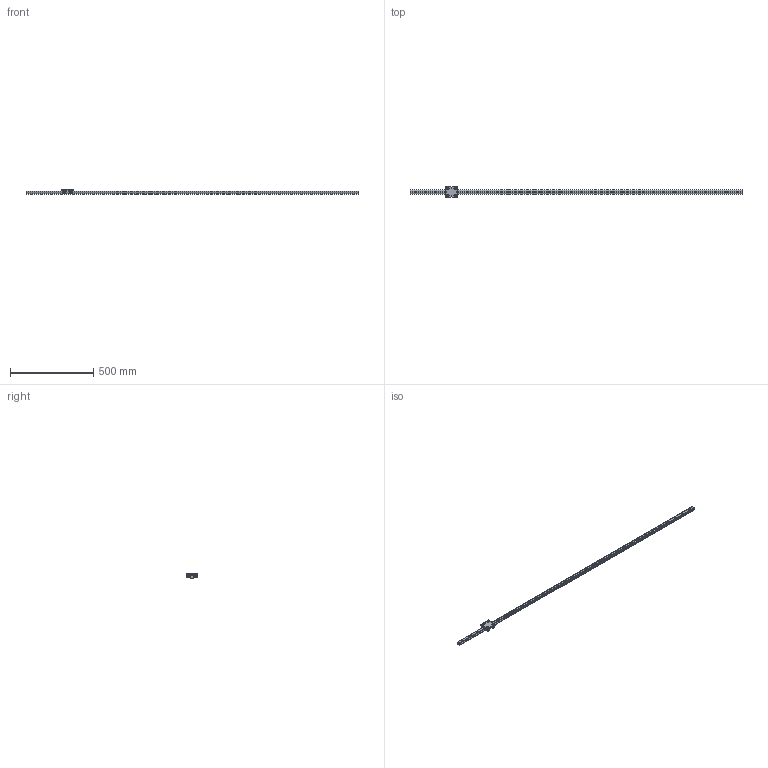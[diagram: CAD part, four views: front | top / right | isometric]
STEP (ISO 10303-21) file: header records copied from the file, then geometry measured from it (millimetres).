
FILE_DESCRIPTION((''),'2;1');
FILE_NAME('C:\Documents and Settings\土屋\My Documents\土屋移動用フォルダ\製品 (図面)\改正SPDRダウンロード用図面\step形式\SPDR25R.stp','2017-07-18T16:48:16',('y'),(''),'Autodesk Inventor 11','Autodesk Inventor 11','');
FILE_SCHEMA(('AUTOMOTIVE_DESIGN { 1 0 10303 214 1 1 1 1 }'));
Length unit declared in the file: millimetre
Products named in the file (3): SPDR25R; SPDR25Rレール; SPDR25Rキャリッジ
Assembly tree (2 placements, depth 2):
  SPDR25R
    SPDR25Rレール
    SPDR25Rキャリッジ
Bounding box: 2000 x 65 x 25 mm (x, y, z)
Volume: 680988.5 mm3; surface area: 191830.6 mm2
Topology: 2 solids, 2 shells, 258 faces, 538 edges, 340 vertices
Faces by surface type: bspline 112, plane 68, cone 48, cylinder 30
Full cylindrical faces by diameter (mm): 6 x4, 10.6 x8, 20 x8
Entity records: 7770 total; most frequent: CARTESIAN_POINT 2889, DIRECTION 900, ORIENTED_EDGE 884, EDGE_LOOP 482, EDGE_CURVE 442, AXIS2_PLACEMENT_3D 403, VERTEX_POINT 340, FACE_OUTER_BOUND 258
